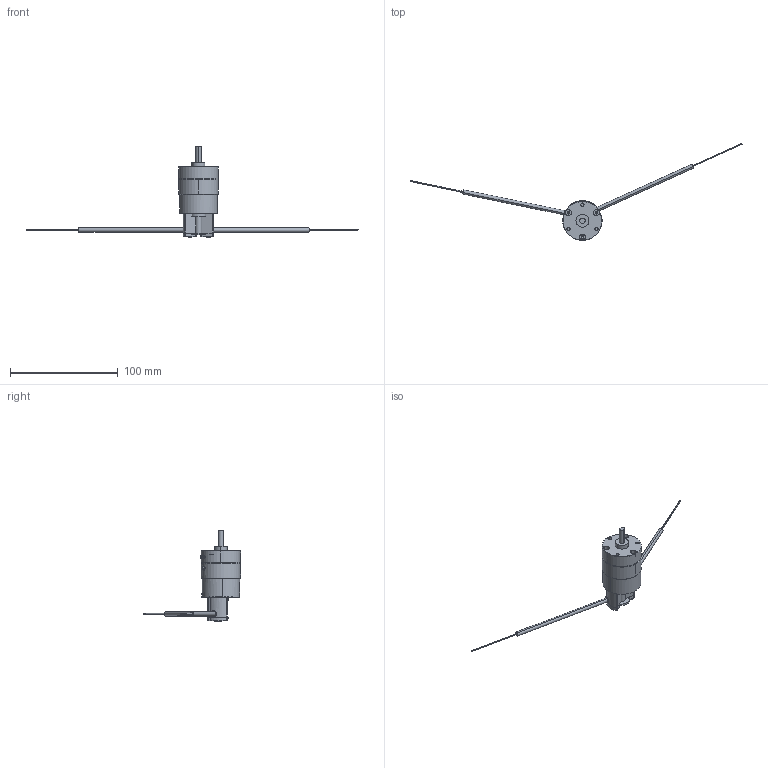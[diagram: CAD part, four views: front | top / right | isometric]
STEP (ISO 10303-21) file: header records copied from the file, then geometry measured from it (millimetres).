
FILE_DESCRIPTION (( 'STEP AP203' ), '1' );
FILE_NAME ('PROA3S-#-#-#-FU.STEP', '2016-02-04T06:57:49', ( 'Sam Lin' ), ( '' ), 'SwSTEP 2.0', 'SolidWorks 2013', '' );
FILE_SCHEMA (( 'CONFIG_CONTROL_DESIGN' ));
Length unit declared in the file: metre
Products named in the file (15): PROA3S-#-#-#-FU (1); PROA3S-#-#-#-FU (2); PROA3S-#-#-#-FU (3); PROA3S-#-# (4); PROA3S-#-#-#-FU (5); PROA3S-#-# (5); PROA3S-#-#-#-FU (6); PROA3S-#-# (1); PROA3S-#-#-#-FU (7); PROA3S-#-# (2); PROA3S-#-#-#-FU (4); PROA3S-#-# (3); mark-PROA3S-2; PROA3S-#-# (6); PROA3S-#-#-#-FU
Assembly tree (16 placements, depth 2):
  PROA3S-#-#-#-FU
    PROA3S-#-# (4)
    PROA3S-#-# (5)
    PROA3S-#-# (1)
    PROA3S-#-# (2)
    PROA3S-#-# (3)
    PROA3S-#-# (6)
    PROA3S-#-#-#-FU (1)
    PROA3S-#-#-#-FU (2)
    PROA3S-#-#-#-FU (3)  x2
    PROA3S-#-#-#-FU (5)
    PROA3S-#-#-#-FU (6)
    PROA3S-#-#-#-FU (7)
    PROA3S-#-#-#-FU (4)  x2
    mark-PROA3S-2
Bounding box: 307.86 x 90.04 x 85.22 mm (x, y, z)
Volume: 40413.6 mm3; surface area: 23677.4 mm2
Topology: 22 solids, 22 shells, 505 faces, 1233 edges, 809 vertices
Faces by surface type: cylinder 233, plane 214, bspline 39, cone 19
Entity records: 19122 total; most frequent: CARTESIAN_POINT 5935, DIRECTION 2484, ORIENTED_EDGE 2342, EDGE_CURVE 1171, AXIS2_PLACEMENT_3D 959, VERTEX_POINT 775, VECTOR 566, LINE 566
